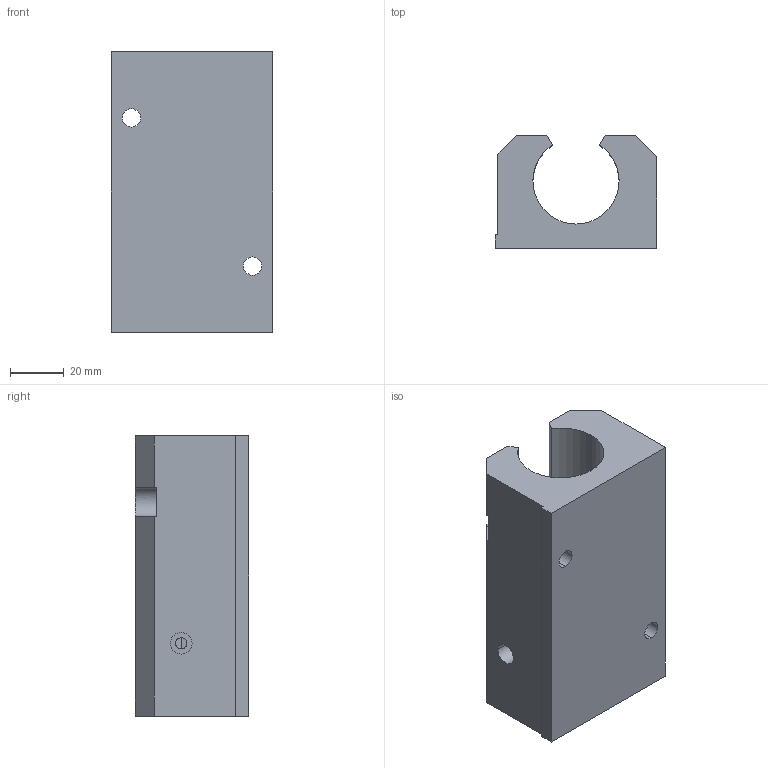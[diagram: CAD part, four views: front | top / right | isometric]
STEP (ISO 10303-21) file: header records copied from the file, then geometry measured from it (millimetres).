
FILE_DESCRIPTION (( 'STEP AP214' ), '1' );
FILE_NAME ('KTGO87-20.step', '2020-03-04T13:28:36', ( '' ), ( '' ), 'SwSTEP 2.0', 'SolidWorks 2019', '' );
FILE_SCHEMA (( 'AUTOMOTIVE_DESIGN' ));
Length unit declared in the file: millimetre
Products named in the file (1): KTGO87-20
Bounding box: 60 x 42 x 104 mm (x, y, z)
Volume: 159286.5 mm3; surface area: 33018.8 mm2
Topology: 1 solids, 1 shells, 46 faces, 122 edges, 78 vertices
Faces by surface type: plane 23, cylinder 21, cone 2
Entity records: 1738 total; most frequent: CARTESIAN_POINT 423, ORIENTED_EDGE 244, DIRECTION 242, EDGE_CURVE 122, AXIS2_PLACEMENT_3D 83, VERTEX_POINT 78, LINE 76, VECTOR 76
